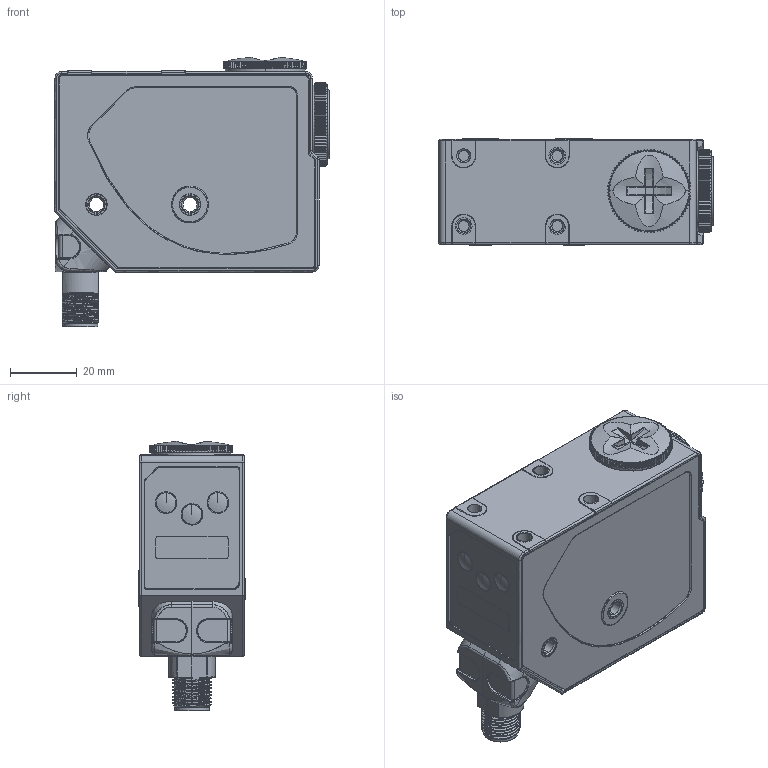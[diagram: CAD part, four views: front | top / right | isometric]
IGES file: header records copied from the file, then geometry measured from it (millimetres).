
Global section: file name: D:\DD\AP003182_00.igs; native system: NX V7.5; preprocessor: SIEMENS PLM Software NX 7.5; date: 20110518.154455; units: millimetre
Bounding box: 82.14 x 31.9 x 80.52 mm (x, y, z)
Surface area: 34384.5 mm2 (no closed solid volume)
Topology: 0 solids, 0 shells, 2020 faces, 12389 edges, 12338 vertices
Faces by surface type: bspline 2020
